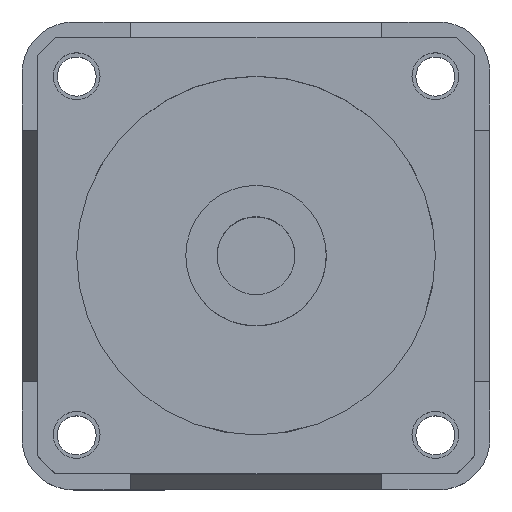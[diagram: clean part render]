
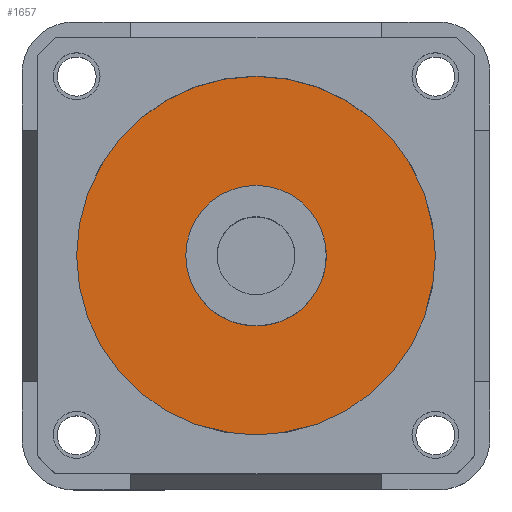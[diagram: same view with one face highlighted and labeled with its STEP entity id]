
A CAD part, top view. The second image highlights one B-rep face of the part: STEP entity #1657.
In plain terms, the highlighted planar face has unit normal (0, 0, 1).
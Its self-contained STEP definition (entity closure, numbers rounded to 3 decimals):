
#248 = VERTEX_POINT ( 'NONE', #2081 ) ;
#290 = CARTESIAN_POINT ( 'NONE',  ( 0., 0., -6.3 ) ) ;
#320 = EDGE_LOOP ( 'NONE', ( #3492, #3844 ) ) ;
#357 = CARTESIAN_POINT ( 'NONE',  ( 0., 0., -6.3 ) ) ;
#393 = DIRECTION ( 'NONE',  ( 1., 0., 0. ) ) ;
#546 = DIRECTION ( 'NONE',  ( 1., 0., 0. ) ) ;
#631 = EDGE_CURVE ( 'NONE', #2711, #248, #3565, .T. ) ;
#636 = ORIENTED_EDGE ( 'NONE', *, *, #2165, .F. ) ;
#644 = DIRECTION ( 'NONE',  ( 0., 0., 1. ) ) ;
#805 = VERTEX_POINT ( 'NONE', #2013 ) ;
#854 = FACE_OUTER_BOUND ( 'NONE', #320, .T. ) ;
#860 = AXIS2_PLACEMENT_3D ( 'NONE', #3987, #2113, #393 ) ;
#879 = PLANE ( 'NONE',  #2278 ) ;
#992 = EDGE_CURVE ( 'NONE', #805, #1047, #3825, .T. ) ;
#1047 = VERTEX_POINT ( 'NONE', #1433 ) ;
#1254 = ORIENTED_EDGE ( 'NONE', *, *, #992, .F. ) ;
#1433 = CARTESIAN_POINT ( 'NONE',  ( 4.5, 0., -6.3 ) ) ;
#1483 = EDGE_LOOP ( 'NONE', ( #1254, #636 ) ) ;
#1514 = AXIS2_PLACEMENT_3D ( 'NONE', #2598, #1586, #1639 ) ;
#1586 = DIRECTION ( 'NONE',  ( 0., 0., 1. ) ) ;
#1639 = DIRECTION ( 'NONE',  ( 1., 0., 0. ) ) ;
#1657 = ADVANCED_FACE ( 'NONE', ( #3985, #854 ), #879, .T. ) ;
#1824 = AXIS2_PLACEMENT_3D ( 'NONE', #290, #3462, #3150 ) ;
#1918 = AXIS2_PLACEMENT_3D ( 'NONE', #357, #644, #2564 ) ;
#2013 = CARTESIAN_POINT ( 'NONE',  ( -4.5, 0., -6.3 ) ) ;
#2081 = CARTESIAN_POINT ( 'NONE',  ( -11.5, 0., -6.3 ) ) ;
#2110 = CARTESIAN_POINT ( 'NONE',  ( 0., 0., -6.3 ) ) ;
#2113 = DIRECTION ( 'NONE',  ( 0., 0., 1. ) ) ;
#2165 = EDGE_CURVE ( 'NONE', #1047, #805, #2440, .T. ) ;
#2278 = AXIS2_PLACEMENT_3D ( 'NONE', #2110, #2466, #546 ) ;
#2296 = CARTESIAN_POINT ( 'NONE',  ( 11.5, 0., -6.3 ) ) ;
#2440 = CIRCLE ( 'NONE', #860, 4.5 ) ;
#2466 = DIRECTION ( 'NONE',  ( 0., 0., 1. ) ) ;
#2564 = DIRECTION ( 'NONE',  ( 1., 0., 0. ) ) ;
#2598 = CARTESIAN_POINT ( 'NONE',  ( 0., 0., -6.3 ) ) ;
#2711 = VERTEX_POINT ( 'NONE', #2296 ) ;
#3150 = DIRECTION ( 'NONE',  ( 1., 0., 0. ) ) ;
#3408 = CIRCLE ( 'NONE', #1824, 11.5 ) ;
#3462 = DIRECTION ( 'NONE',  ( 0., 0., 1. ) ) ;
#3492 = ORIENTED_EDGE ( 'NONE', *, *, #631, .T. ) ;
#3565 = CIRCLE ( 'NONE', #1918, 11.5 ) ;
#3825 = CIRCLE ( 'NONE', #1514, 4.5 ) ;
#3844 = ORIENTED_EDGE ( 'NONE', *, *, #3859, .T. ) ;
#3859 = EDGE_CURVE ( 'NONE', #248, #2711, #3408, .T. ) ;
#3985 = FACE_BOUND ( 'NONE', #1483, .T. ) ;
#3987 = CARTESIAN_POINT ( 'NONE',  ( 0., 0., -6.3 ) ) ;
